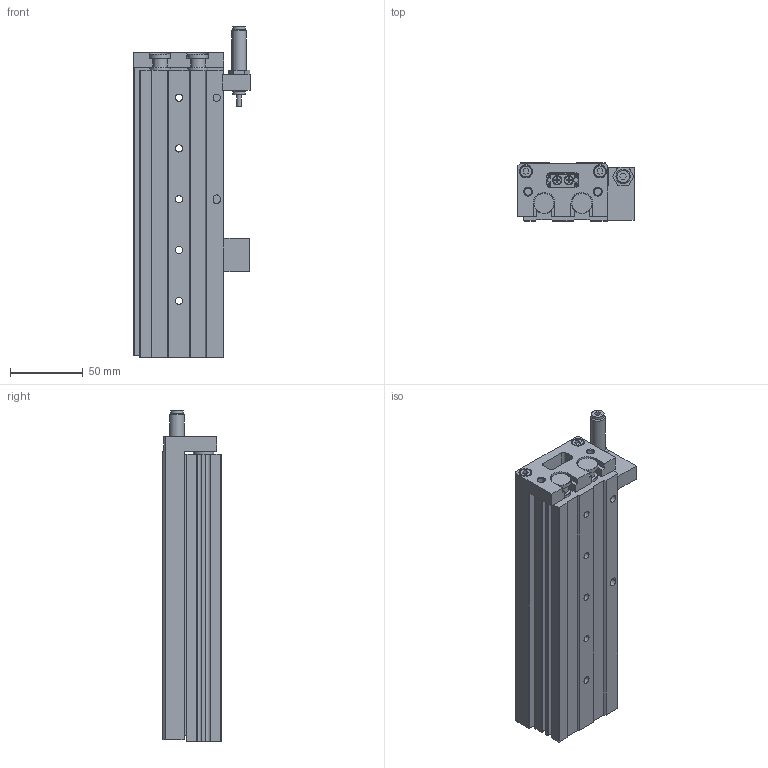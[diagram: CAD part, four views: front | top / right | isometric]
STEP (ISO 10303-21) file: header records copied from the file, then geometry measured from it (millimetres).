
FILE_DESCRIPTION( ( 'STEP AP214' ), '1' );
FILE_NAME( 'C:/Users/EMC02301/Desktop/ELSL图纸/ELSL16X100-S-BS.stp', '2026-08-05T07:49:15', ( 'License CC BY-ND 4.0' ), ( 'CADENAS' ), ' ', 'PARTsolutions', ' ' );
FILE_SCHEMA( ( 'AUTOMOTIVE_DESIGN { 1 0 10303 214 1 1 1 1 }' ) );
Length unit declared in the file: millimetre
Products named in the file (5): ELSL16X100-S-BS(0)(); _ELSL16X100-S-BS(HX-07)(HX-07-1)(0-body); _ELSL16X100-S-BS(0-rod); _FJ-ELS16-BS; _FJ-ELSL16-BS-(BS)
Assembly tree (4 placements, depth 2):
  ELSL16X100-S-BS(0)()
    _ELSL16X100-S-BS(HX-07)(HX-07-1)(0-body)
    _ELSL16X100-S-BS(0-rod)
    _FJ-ELS16-BS
    _FJ-ELSL16-BS-(BS)
Bounding box: 80 x 40 x 228 mm (x, y, z)
Volume: 439909.6 mm3; surface area: 137008.4 mm2
Topology: 4 solids, 4 shells, 519 faces, 1249 edges, 823 vertices
Faces by surface type: plane 386, cylinder 103, cone 28, torus 2
Full cylindrical faces by diameter (mm): 3 x1, 4.134 x14, 4.459 x2, 4.917 x7, 5 x2, 5.1 x5, 5.5 x8, 6.5 x8, 6.933 x2, 7.267 x2, 7.333 x2, 7.667 x2, 8 x4, 8.5 x2, 8.6 x2, 9 x2, 10 x2, 10.5 x10, 14 x6, 16 x4, 18 x2
Entity records: 18531 total; most frequent: CARTESIAN_POINT 2443, DIRECTION 2403, ORIENTED_EDGE 2226, EDGE_CURVE 1113, LINE 871, VECTOR 871, VERTEX_POINT 806, AXIS2_PLACEMENT_3D 766
